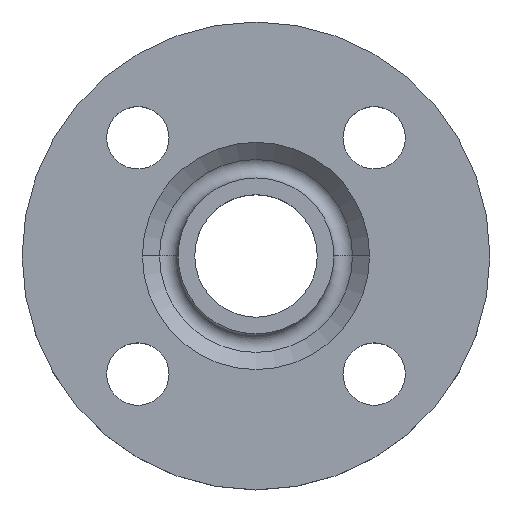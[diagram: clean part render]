
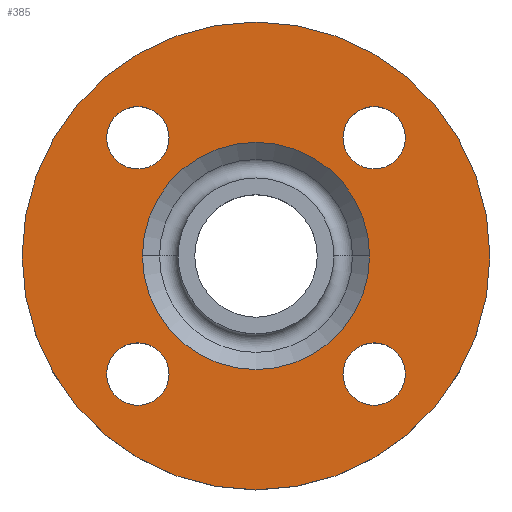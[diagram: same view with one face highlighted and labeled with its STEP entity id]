
A CAD part, top view. The second image highlights one B-rep face of the part: STEP entity #385.
In plain terms, the highlighted planar face has unit normal (0, 0, 1).
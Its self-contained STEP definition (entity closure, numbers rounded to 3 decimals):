
#5 = DIRECTION ( 'NONE',  ( 0., 0., -1. ) ) ;
#40 = DIRECTION ( 'NONE',  ( -1., 0., 0. ) ) ;
#41 = DIRECTION ( 'NONE',  ( 0., 0., -1. ) ) ;
#42 = CARTESIAN_POINT ( 'NONE',  ( 0., 0., -2. ) ) ;
#47 = CARTESIAN_POINT ( 'NONE',  ( -25.5, 0., -2. ) ) ;
#52 = CARTESIAN_POINT ( 'NONE',  ( 19.517, -26.517, -2. ) ) ;
#57 = DIRECTION ( 'NONE',  ( 1., 0., 0. ) ) ;
#65 = CARTESIAN_POINT ( 'NONE',  ( 26.517, 26.517, -2. ) ) ;
#66 = DIRECTION ( 'NONE',  ( 0., 0., -1. ) ) ;
#70 = AXIS2_PLACEMENT_3D ( 'NONE', #736, #738, #739 ) ;
#72 = FACE_OUTER_BOUND ( 'NONE', #538, .T. ) ;
#77 = FACE_BOUND ( 'NONE', #607, .T. ) ;
#78 = FACE_BOUND ( 'NONE', #519, .T. ) ;
#79 = PLANE ( 'NONE',  #822 ) ;
#80 = CARTESIAN_POINT ( 'NONE',  ( 52.5, 0., -2. ) ) ;
#81 = DIRECTION ( 'NONE',  ( 0., 0., 1. ) ) ;
#82 = CARTESIAN_POINT ( 'NONE',  ( 19.517, 26.517, -2. ) ) ;
#93 = CARTESIAN_POINT ( 'NONE',  ( -33.517, 26.517, -2. ) ) ;
#95 = DIRECTION ( 'NONE',  ( 1., 0., 0. ) ) ;
#99 = CARTESIAN_POINT ( 'NONE',  ( 0., 0., -2. ) ) ;
#102 = DIRECTION ( 'NONE',  ( -1., 0., 0. ) ) ;
#105 = CARTESIAN_POINT ( 'NONE',  ( 52.5, 0., -2. ) ) ;
#109 = DIRECTION ( 'NONE',  ( 1., 0., 0. ) ) ;
#110 = DIRECTION ( 'NONE',  ( 0., 0., -1. ) ) ;
#114 = DIRECTION ( 'NONE',  ( 0., 0., -1. ) ) ;
#119 = CARTESIAN_POINT ( 'NONE',  ( 26.517, -26.517, -2. ) ) ;
#123 = DIRECTION ( 'NONE',  ( 0., 0., -1. ) ) ;
#125 = CARTESIAN_POINT ( 'NONE',  ( -19.517, -26.517, -2. ) ) ;
#135 = AXIS2_PLACEMENT_3D ( 'NONE', #373, #114, #256 ) ;
#138 = CIRCLE ( 'NONE', #296, 52.5 ) ;
#150 = CARTESIAN_POINT ( 'NONE',  ( 33.517, 26.517, -2. ) ) ;
#152 = CARTESIAN_POINT ( 'NONE',  ( 33.517, -26.517, -2. ) ) ;
#153 = CARTESIAN_POINT ( 'NONE',  ( -33.517, -26.517, -2. ) ) ;
#156 = EDGE_CURVE ( 'NONE', #609, #466, #792, .T. ) ;
#157 = CARTESIAN_POINT ( 'NONE',  ( -19.517, 26.517, -2. ) ) ;
#158 = DIRECTION ( 'NONE',  ( 0., 0., -1. ) ) ;
#159 = DIRECTION ( 'NONE',  ( 1., 0., 0. ) ) ;
#162 = CIRCLE ( 'NONE', #135, 7. ) ;
#173 = CIRCLE ( 'NONE', #483, 52.5 ) ;
#216 = AXIS2_PLACEMENT_3D ( 'NONE', #99, #123, #102 ) ;
#227 = AXIS2_PLACEMENT_3D ( 'NONE', #65, #66, #57 ) ;
#237 = CARTESIAN_POINT ( 'NONE',  ( 26.517, -26.517, -2. ) ) ;
#241 = CIRCLE ( 'NONE', #227, 7. ) ;
#245 = DIRECTION ( 'NONE',  ( 0., 0., -1. ) ) ;
#247 = DIRECTION ( 'NONE',  ( 1., 0., 0. ) ) ;
#253 = CARTESIAN_POINT ( 'NONE',  ( 26.517, 26.517, -2. ) ) ;
#255 = DIRECTION ( 'NONE',  ( 0., 0., -1. ) ) ;
#256 = DIRECTION ( 'NONE',  ( 1., 0., 0. ) ) ;
#260 = EDGE_CURVE ( 'NONE', #466, #609, #633, .T. ) ;
#267 = EDGE_CURVE ( 'NONE', #612, #645, #548, .T. ) ;
#287 = DIRECTION ( 'NONE',  ( -1., 0., 0. ) ) ;
#288 = DIRECTION ( 'NONE',  ( 0., 0., -1. ) ) ;
#289 = CARTESIAN_POINT ( 'NONE',  ( 0., 0., -2. ) ) ;
#296 = AXIS2_PLACEMENT_3D ( 'NONE', #820, #5, #823 ) ;
#302 = DIRECTION ( 'NONE',  ( 1., 0., 0. ) ) ;
#303 = FACE_BOUND ( 'NONE', #527, .T. ) ;
#304 = FACE_BOUND ( 'NONE', #471, .T. ) ;
#305 = FACE_BOUND ( 'NONE', #463, .T. ) ;
#314 = CARTESIAN_POINT ( 'NONE',  ( -26.517, 26.517, -2. ) ) ;
#318 = AXIS2_PLACEMENT_3D ( 'NONE', #253, #255, #302 ) ;
#323 = CARTESIAN_POINT ( 'NONE',  ( -52.5, 0., -2. ) ) ;
#328 = CARTESIAN_POINT ( 'NONE',  ( 25.5, 0., -2. ) ) ;
#366 = AXIS2_PLACEMENT_3D ( 'NONE', #119, #158, #159 ) ;
#372 = EDGE_CURVE ( 'NONE', #645, #612, #813, .T. ) ;
#373 = CARTESIAN_POINT ( 'NONE',  ( -26.517, 26.517, -2. ) ) ;
#383 = EDGE_CURVE ( 'NONE', #407, #616, #701, .T. ) ;
#385 = ADVANCED_FACE ( 'NONE', ( #303, #305, #304, #77, #78, #72 ), #79, .T. ) ;
#387 = AXIS2_PLACEMENT_3D ( 'NONE', #314, #110, #95 ) ;
#388 = CIRCLE ( 'NONE', #216, 25.5 ) ;
#394 = CIRCLE ( 'NONE', #555, 25.5 ) ;
#397 = EDGE_CURVE ( 'NONE', #650, #626, #388, .T. ) ;
#399 = EDGE_CURVE ( 'NONE', #618, #470, #670, .T. ) ;
#407 = VERTEX_POINT ( 'NONE', #82 ) ;
#415 = VERTEX_POINT ( 'NONE', #80 ) ;
#418 = ORIENTED_EDGE ( 'NONE', *, *, #671, .F. ) ;
#425 = ORIENTED_EDGE ( 'NONE', *, *, #643, .T. ) ;
#440 = ORIENTED_EDGE ( 'NONE', *, *, #652, .F. ) ;
#456 = EDGE_CURVE ( 'NONE', #470, #618, #162, .T. ) ;
#457 = ORIENTED_EDGE ( 'NONE', *, *, #383, .T. ) ;
#463 = EDGE_LOOP ( 'NONE', ( #515, #511 ) ) ;
#466 = VERTEX_POINT ( 'NONE', #125 ) ;
#470 = VERTEX_POINT ( 'NONE', #93 ) ;
#471 = EDGE_LOOP ( 'NONE', ( #513, #516 ) ) ;
#483 = AXIS2_PLACEMENT_3D ( 'NONE', #42, #41, #40 ) ;
#487 = AXIS2_PLACEMENT_3D ( 'NONE', #237, #245, #247 ) ;
#498 = ORIENTED_EDGE ( 'NONE', *, *, #397, .T. ) ;
#511 = ORIENTED_EDGE ( 'NONE', *, *, #156, .T. ) ;
#512 = ORIENTED_EDGE ( 'NONE', *, *, #267, .T. ) ;
#513 = ORIENTED_EDGE ( 'NONE', *, *, #399, .T. ) ;
#514 = ORIENTED_EDGE ( 'NONE', *, *, #372, .T. ) ;
#515 = ORIENTED_EDGE ( 'NONE', *, *, #260, .T. ) ;
#516 = ORIENTED_EDGE ( 'NONE', *, *, #456, .T. ) ;
#517 = ORIENTED_EDGE ( 'NONE', *, *, #554, .T. ) ;
#519 = EDGE_LOOP ( 'NONE', ( #517, #498 ) ) ;
#527 = EDGE_LOOP ( 'NONE', ( #512, #514 ) ) ;
#538 = EDGE_LOOP ( 'NONE', ( #440, #418 ) ) ;
#548 = CIRCLE ( 'NONE', #366, 7. ) ;
#554 = EDGE_CURVE ( 'NONE', #626, #650, #394, .T. ) ;
#555 = AXIS2_PLACEMENT_3D ( 'NONE', #289, #288, #287 ) ;
#607 = EDGE_LOOP ( 'NONE', ( #425, #457 ) ) ;
#609 = VERTEX_POINT ( 'NONE', #153 ) ;
#612 = VERTEX_POINT ( 'NONE', #152 ) ;
#616 = VERTEX_POINT ( 'NONE', #150 ) ;
#618 = VERTEX_POINT ( 'NONE', #157 ) ;
#626 = VERTEX_POINT ( 'NONE', #328 ) ;
#633 = CIRCLE ( 'NONE', #762, 7. ) ;
#637 = VERTEX_POINT ( 'NONE', #323 ) ;
#643 = EDGE_CURVE ( 'NONE', #616, #407, #241, .T. ) ;
#645 = VERTEX_POINT ( 'NONE', #52 ) ;
#650 = VERTEX_POINT ( 'NONE', #47 ) ;
#652 = EDGE_CURVE ( 'NONE', #415, #637, #138, .T. ) ;
#670 = CIRCLE ( 'NONE', #387, 7. ) ;
#671 = EDGE_CURVE ( 'NONE', #637, #415, #173, .T. ) ;
#701 = CIRCLE ( 'NONE', #318, 7. ) ;
#736 = CARTESIAN_POINT ( 'NONE',  ( -26.517, -26.517, -2. ) ) ;
#738 = DIRECTION ( 'NONE',  ( 0., 0., -1. ) ) ;
#739 = DIRECTION ( 'NONE',  ( 1., 0., 0. ) ) ;
#762 = AXIS2_PLACEMENT_3D ( 'NONE', #811, #814, #815 ) ;
#792 = CIRCLE ( 'NONE', #70, 7. ) ;
#811 = CARTESIAN_POINT ( 'NONE',  ( -26.517, -26.517, -2. ) ) ;
#813 = CIRCLE ( 'NONE', #487, 7. ) ;
#814 = DIRECTION ( 'NONE',  ( 0., 0., -1. ) ) ;
#815 = DIRECTION ( 'NONE',  ( 1., 0., 0. ) ) ;
#820 = CARTESIAN_POINT ( 'NONE',  ( 0., 0., -2. ) ) ;
#822 = AXIS2_PLACEMENT_3D ( 'NONE', #105, #81, #109 ) ;
#823 = DIRECTION ( 'NONE',  ( -1., 0., 0. ) ) ;
